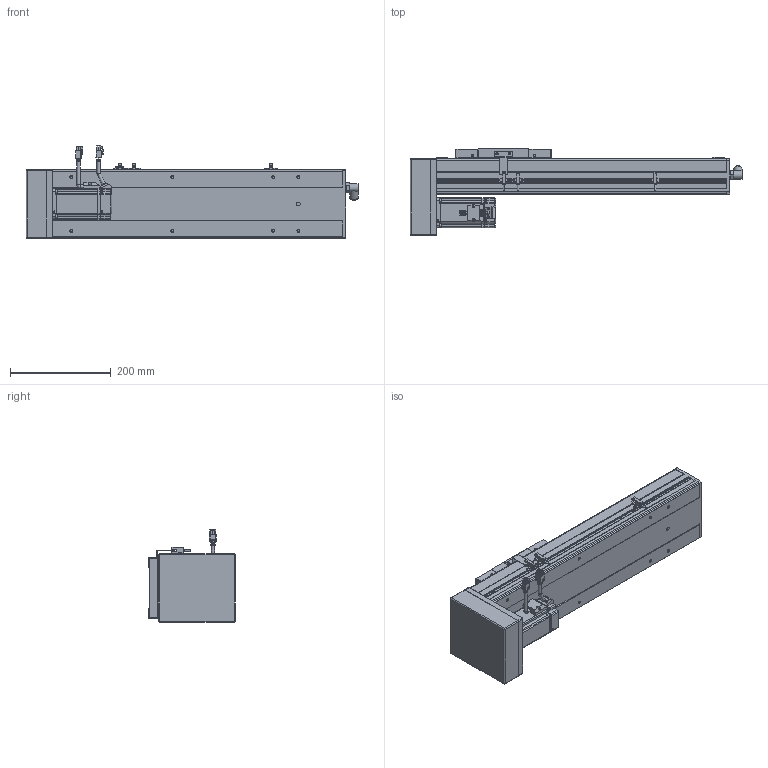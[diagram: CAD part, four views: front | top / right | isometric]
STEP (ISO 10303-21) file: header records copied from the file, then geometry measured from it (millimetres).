
FILE_DESCRIPTION(/* description */ ('STEP AP214'),/* implementation_level */ '2;1');
FILE_NAME(/* name */ 'PSC140-L05-S300-BM-P40-C1-N(0-P)',/* time_stamp */ '2022-06-13T03:20:39+02:00',/* author */ ('License CC BY-ND 4.0'),/* organization */ ('CADENAS'),/* preprocessor_version */ 'ST-DEVELOPER v18.102',/* originating_system */ 'PARTsolutions',/* authorisation */ ' ');
FILE_SCHEMA (('AUTOMOTIVE_DESIGN {1 0 10303 214 3 1 1}'));
Length unit declared in the file: millimetre
Products named in the file (11): PSC140-L05-S300-BM-P40-C1-N(0-P); P40-s2; P40-c2; P40-s1; P40-c1; P40-p1; PSC140-BM-body2; PSC140-sensor; PSC140-BM-SLIDER; PSC140-S300-BM-P40-C1-P_BODY1; PSC140-L05-S300-BM-P40-C1-N(0-P)_dummy
Assembly tree (12 placements, depth 2):
  PSC140-L05-S300-BM-P40-C1-N(0-P)
    P40-s2
    P40-c2
    P40-s1
    P40-c1
    P40-p1
    PSC140-BM-body2
    PSC140-sensor  x3
    PSC140-BM-SLIDER
    PSC140-S300-BM-P40-C1-P_BODY1
    PSC140-L05-S300-BM-P40-C1-N(0-P)_dummy
Bounding box: 658 x 171.5 x 182.48 mm (x, y, z)
Volume: 7355268.5 mm3; surface area: 480870.2 mm2
Topology: 11 solids, 11 shells, 1226 faces, 3175 edges, 2102 vertices
Faces by surface type: plane 858, cylinder 313, cone 36, torus 19
Full cylindrical faces by diameter (mm): 1 x8, 2.6 x10, 2.8 x3, 3.3 x8, 4.5 x12, 4.6 x3, 4.917 x12, 5 x4, 5.5 x8, 6 x11, 7 x10, 9 x2, 10 x1, 11 x1, 12 x1, 13.74 x1, 14 x1, 16.4 x2, 16.5 x1, 36 x1, 50 x2
Entity records: 34032 total; most frequent: CARTESIAN_POINT 5948, DIRECTION 5717, ORIENTED_EDGE 5538, EDGE_CURVE 2769, LINE 2105, VECTOR 2105, VERTEX_POINT 1922, AXIS2_PLACEMENT_3D 1806
